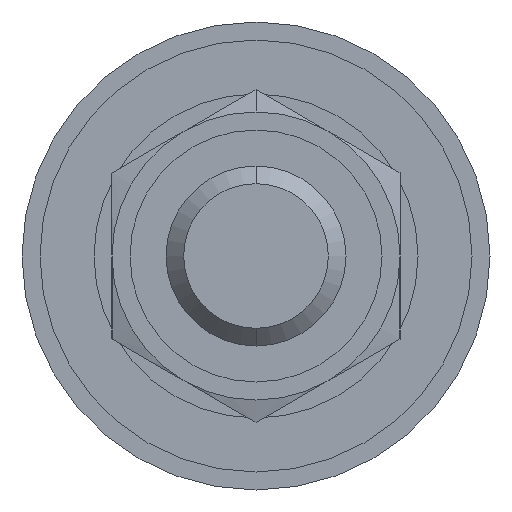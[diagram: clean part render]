
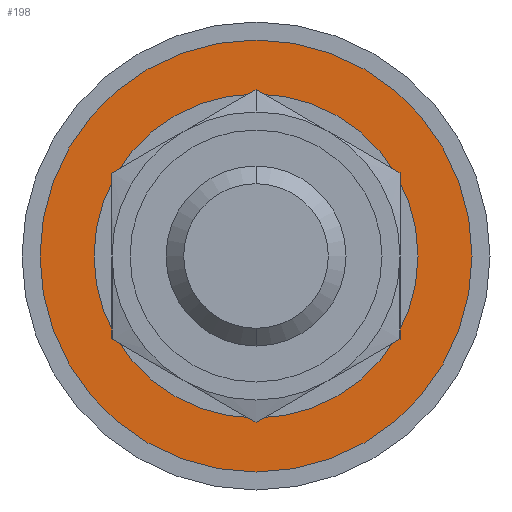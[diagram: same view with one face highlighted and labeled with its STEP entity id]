
A CAD part, front view. The second image highlights one B-rep face of the part: STEP entity #198.
In plain terms, the highlighted planar face has unit normal (0, -1, 0).
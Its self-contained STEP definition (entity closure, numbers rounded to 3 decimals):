
#198 = ADVANCED_FACE ( 'NONE', ( #364, #1143 ), #999, .F. ) ;
#209 = EDGE_CURVE ( 'NONE', #1002, #314, #247, .T. ) ;
#247 = CIRCLE ( 'NONE', #764, 4.5 ) ;
#286 = DIRECTION ( 'NONE',  ( 0., 0., -1. ) ) ;
#314 = VERTEX_POINT ( 'NONE', #1050 ) ;
#318 = DIRECTION ( 'NONE',  ( 0., -1., 0. ) ) ;
#319 = EDGE_CURVE ( 'NONE', #314, #1002, #1686, .T. ) ;
#328 = CARTESIAN_POINT ( 'NONE',  ( 0., 7., 6. ) ) ;
#364 = FACE_OUTER_BOUND ( 'NONE', #964, .T. ) ;
#378 = CIRCLE ( 'NONE', #642, 6. ) ;
#382 = CARTESIAN_POINT ( 'NONE',  ( 0., 7., 0. ) ) ;
#468 = ORIENTED_EDGE ( 'NONE', *, *, #319, .F. ) ;
#511 = EDGE_CURVE ( 'NONE', #1966, #1032, #378, .T. ) ;
#539 = AXIS2_PLACEMENT_3D ( 'NONE', #945, #318, #1385 ) ;
#556 = CARTESIAN_POINT ( 'NONE',  ( 0., 7., -6. ) ) ;
#642 = AXIS2_PLACEMENT_3D ( 'NONE', #766, #1058, #796 ) ;
#645 = CIRCLE ( 'NONE', #539, 6. ) ;
#764 = AXIS2_PLACEMENT_3D ( 'NONE', #382, #852, #1600 ) ;
#766 = CARTESIAN_POINT ( 'NONE',  ( 0., 7., 0. ) ) ;
#796 = DIRECTION ( 'NONE',  ( 0., 0., -1. ) ) ;
#852 = DIRECTION ( 'NONE',  ( 0., -1., 0. ) ) ;
#945 = CARTESIAN_POINT ( 'NONE',  ( 0., 7., 0. ) ) ;
#964 = EDGE_LOOP ( 'NONE', ( #1793, #995 ) ) ;
#977 = DIRECTION ( 'NONE',  ( 0., 1., 0. ) ) ;
#995 = ORIENTED_EDGE ( 'NONE', *, *, #511, .T. ) ;
#999 = PLANE ( 'NONE',  #1203 ) ;
#1002 = VERTEX_POINT ( 'NONE', #1130 ) ;
#1032 = VERTEX_POINT ( 'NONE', #556 ) ;
#1050 = CARTESIAN_POINT ( 'NONE',  ( 0., 7., 4.5 ) ) ;
#1058 = DIRECTION ( 'NONE',  ( 0., -1., 0. ) ) ;
#1130 = CARTESIAN_POINT ( 'NONE',  ( 0., 7., -4.5 ) ) ;
#1143 = FACE_BOUND ( 'NONE', #1220, .T. ) ;
#1203 = AXIS2_PLACEMENT_3D ( 'NONE', #1902, #977, #1757 ) ;
#1208 = CARTESIAN_POINT ( 'NONE',  ( 0., 7., 0. ) ) ;
#1220 = EDGE_LOOP ( 'NONE', ( #1558, #468 ) ) ;
#1385 = DIRECTION ( 'NONE',  ( 0., 0., -1. ) ) ;
#1558 = ORIENTED_EDGE ( 'NONE', *, *, #209, .F. ) ;
#1600 = DIRECTION ( 'NONE',  ( 0., 0., -1. ) ) ;
#1686 = CIRCLE ( 'NONE', #1887, 4.5 ) ;
#1757 = DIRECTION ( 'NONE',  ( 1., 0., 0. ) ) ;
#1793 = ORIENTED_EDGE ( 'NONE', *, *, #1976, .T. ) ;
#1887 = AXIS2_PLACEMENT_3D ( 'NONE', #1208, #1964, #286 ) ;
#1902 = CARTESIAN_POINT ( 'NONE',  ( 6., 7., 0. ) ) ;
#1964 = DIRECTION ( 'NONE',  ( 0., -1., 0. ) ) ;
#1966 = VERTEX_POINT ( 'NONE', #328 ) ;
#1976 = EDGE_CURVE ( 'NONE', #1032, #1966, #645, .T. ) ;
